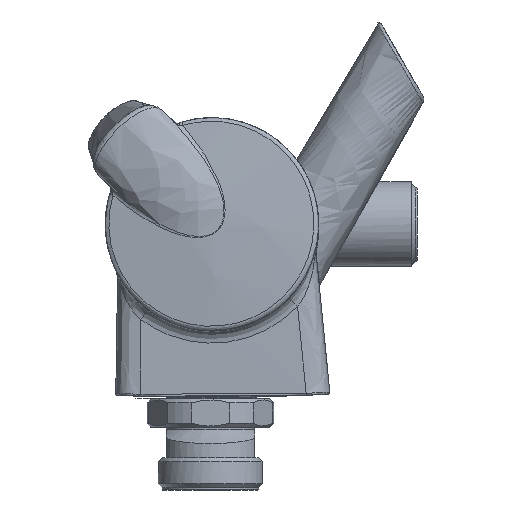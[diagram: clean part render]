
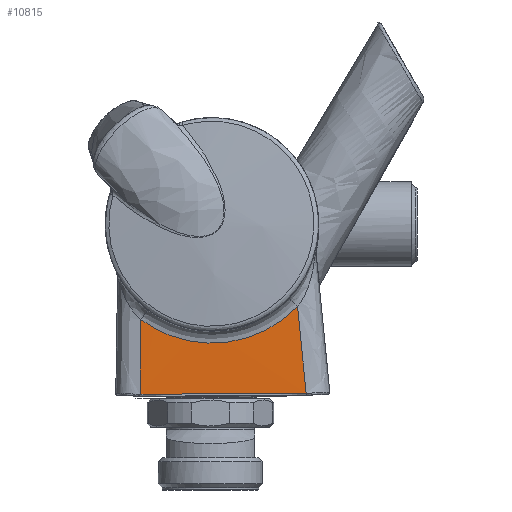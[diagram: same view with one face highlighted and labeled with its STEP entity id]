
A CAD part, left-side view. The second image highlights one B-rep face of the part: STEP entity #10815.
In plain terms, the highlighted cylindrical face has radius 2000 mm (diameter 4000 mm), a partial arc.
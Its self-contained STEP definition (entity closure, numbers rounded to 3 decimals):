
#193 = CARTESIAN_POINT ( 'NONE',  ( -96.712, -21.01, 44.919 ) ) ;
#280 = CARTESIAN_POINT ( 'NONE',  ( -96.887, -12.219, 38.956 ) ) ;
#369 = CARTESIAN_POINT ( 'NONE',  ( -97.142, 8.208, 37.72 ) ) ;
#457 = ORIENTED_EDGE ( 'NONE', *, *, #24108, .T. ) ;
#555 = ORIENTED_EDGE ( 'NONE', *, *, #2555, .T. ) ;
#632 = AXIS2_PLACEMENT_3D ( 'NONE', #11026, #22858, #20894 ) ;
#1967 = CARTESIAN_POINT ( 'NONE',  ( -97.189, 17.408, 36.138 ) ) ;
#1974 = VERTEX_POINT ( 'NONE', #7780 ) ;
#2129 = CARTESIAN_POINT ( 'NONE',  ( -96.649, -23.781, 24.003 ) ) ;
#2180 = CARTESIAN_POINT ( 'NONE',  ( -96.908, -10.978, 38.442 ) ) ;
#2187 = EDGE_CURVE ( 'NONE', #17777, #1974, #13279, .T. ) ;
#2263 = CARTESIAN_POINT ( 'NONE',  ( -97.151, 9.485, 38.14 ) ) ;
#2555 = EDGE_CURVE ( 'NONE', #18854, #17777, #5143, .T. ) ;
#3735 = CARTESIAN_POINT ( 'NONE',  ( -96.649, -23.781, 24.003 ) ) ;
#3865 = CARTESIAN_POINT ( 'NONE',  ( -97.189, 17.471, 29.956 ) ) ;
#3954 = CARTESIAN_POINT ( 'NONE',  ( -96.666, -23.064, 31.191 ) ) ;
#4088 = CARTESIAN_POINT ( 'NONE',  ( -96.943, -8.871, 37.705 ) ) ;
#4169 = CARTESIAN_POINT ( 'NONE',  ( -97.162, 11.148, 38.775 ) ) ;
#4563 = CARTESIAN_POINT ( 'NONE',  ( -97.189, 17.476, 23.773 ) ) ;
#4873 = CARTESIAN_POINT ( 'NONE',  ( -97.189, 17.287, 42.319 ) ) ;
#5143 = B_SPLINE_CURVE_WITH_KNOTS ( 'NONE', 3,
 ( #13390, #1967, #3865, #17382 ),
 .UNSPECIFIED., .F., .F.,
 ( 4, 4 ),
 ( 0.164, 0.965 ),
 .UNSPECIFIED. ) ;
#5197 = CYLINDRICAL_SURFACE ( 'NONE', #632, 2000. ) ;
#5249 = FACE_OUTER_BOUND ( 'NONE', #21618, .T. ) ;
#5932 = CARTESIAN_POINT ( 'NONE',  ( -96.699, -21.63, 45.568 ) ) ;
#5982 = CARTESIAN_POINT ( 'NONE',  ( -97.008, -4.56, 36.704 ) ) ;
#6018 = B_SPLINE_CURVE_WITH_KNOTS ( 'NONE', 3,
 ( #2129, #3954, #17561, #5932 ),
 .UNSPECIFIED., .F., .F.,
 ( 4, 4 ),
 ( 0.039, 0.849 ),
 .UNSPECIFIED. ) ;
#6063 = CARTESIAN_POINT ( 'NONE',  ( -97.179, 14.337, 40.315 ) ) ;
#6691 = VERTEX_POINT ( 'NONE', #24824 ) ;
#7780 = CARTESIAN_POINT ( 'NONE',  ( -96.649, -23.781, 24.003 ) ) ;
#7795 = CARTESIAN_POINT ( 'NONE',  ( -96.755, -19.01, 43.12 ) ) ;
#7876 = CARTESIAN_POINT ( 'NONE',  ( -97.053, -0.996, 36.448 ) ) ;
#7956 = CARTESIAN_POINT ( 'NONE',  ( -97.189, 17.287, 42.319 ) ) ;
#9696 = CARTESIAN_POINT ( 'NONE',  ( -96.814, -16.151, 41.002 ) ) ;
#9774 = CARTESIAN_POINT ( 'NONE',  ( -97.083, 1.675, 36.51 ) ) ;
#10457 = ORIENTED_EDGE ( 'NONE', *, *, #14047, .T. ) ;
#10732 = CARTESIAN_POINT ( 'NONE',  ( -97.189, 17.476, 23.773 ) ) ;
#10815 = ADVANCED_FACE ( 'NONE', ( #5249 ), #5197, .T. ) ;
#11026 = CARTESIAN_POINT ( 'NONE',  ( 1902.803, 23.026, 22.954 ) ) ;
#11641 = CARTESIAN_POINT ( 'NONE',  ( -96.879, -12.625, 39.139 ) ) ;
#11722 = CARTESIAN_POINT ( 'NONE',  ( -97.126, 6.06, 37.103 ) ) ;
#13245 = CARTESIAN_POINT ( 'NONE',  ( -97.151, 3.719, 23.282 ) ) ;
#13279 = B_SPLINE_CURVE_WITH_KNOTS ( 'NONE', 3,
 ( #10732, #13245, #15254, #3735 ),
 .UNSPECIFIED., .F., .F.,
 ( 4, 4 ),
 ( 0., 0.041 ),
 .UNSPECIFIED. ) ;
#13390 = CARTESIAN_POINT ( 'NONE',  ( -97.189, 17.287, 42.319 ) ) ;
#13523 = CARTESIAN_POINT ( 'NONE',  ( -96.699, -21.63, 45.568 ) ) ;
#13619 = CARTESIAN_POINT ( 'NONE',  ( -96.901, -11.396, 38.608 ) ) ;
#13706 = CARTESIAN_POINT ( 'NONE',  ( -97.145, 8.638, 37.854 ) ) ;
#14047 = EDGE_CURVE ( 'NONE', #6691, #18854, #22719, .T. ) ;
#15254 = CARTESIAN_POINT ( 'NONE',  ( -96.971, -10.034, 23.358 ) ) ;
#15626 = CARTESIAN_POINT ( 'NONE',  ( -96.929, -9.719, 37.976 ) ) ;
#15705 = CARTESIAN_POINT ( 'NONE',  ( -97.154, 9.905, 38.292 ) ) ;
#17382 = CARTESIAN_POINT ( 'NONE',  ( -97.189, 17.476, 23.773 ) ) ;
#17561 = CARTESIAN_POINT ( 'NONE',  ( -96.682, -22.347, 38.38 ) ) ;
#17614 = CARTESIAN_POINT ( 'NONE',  ( -96.983, -6.304, 37.011 ) ) ;
#17699 = CARTESIAN_POINT ( 'NONE',  ( -97.167, 11.959, 39.134 ) ) ;
#17777 = VERTEX_POINT ( 'NONE', #4563 ) ;
#18854 = VERTEX_POINT ( 'NONE', #4873 ) ;
#19522 = CARTESIAN_POINT ( 'NONE',  ( -96.727, -20.362, 44.3 ) ) ;
#19613 = CARTESIAN_POINT ( 'NONE',  ( -97.042, -1.896, 36.482 ) ) ;
#19690 = CARTESIAN_POINT ( 'NONE',  ( -97.185, 15.85, 41.244 ) ) ;
#20894 = DIRECTION ( 'NONE',  ( 0., -1., 0. ) ) ;
#20985 = ORIENTED_EDGE ( 'NONE', *, *, #2187, .T. ) ;
#21490 = CARTESIAN_POINT ( 'NONE',  ( -96.77, -18.31, 42.564 ) ) ;
#21576 = CARTESIAN_POINT ( 'NONE',  ( -97.074, 0.788, 36.462 ) ) ;
#21618 = EDGE_LOOP ( 'NONE', ( #555, #20985, #457, #10457 ) ) ;
#22719 = B_SPLINE_CURVE_WITH_KNOTS ( 'NONE', 3,
 ( #13523, #193, #19522, #7795, #21490, #9696, #23463, #11641, #280, #13619, #2180, #15626, #4088, #17614, #5982, #19613, #7876, #21576, #9774, #23557, #11722, #369, #13706, #2263, #15705, #4169, #17699, #6063, #19690, #7956 ),
 .UNSPECIFIED., .F., .F.,
 ( 4, 2, 2, 2, 2, 2, 2, 2, 2, 2, 2, 2, 2, 2, 4 ),
 ( 0., 0.003, 0.005, 0.011, 0.012, 0.013, 0.016, 0.022, 0.024, 0.027, 0.032, 0.034, 0.035, 0.038, 0.043 ),
 .UNSPECIFIED. ) ;
#22858 = DIRECTION ( 'NONE',  ( 0., 0., 1. ) ) ;
#23463 = CARTESIAN_POINT ( 'NONE',  ( -96.843, -14.63, 40.098 ) ) ;
#23557 = CARTESIAN_POINT ( 'NONE',  ( -97.11, 4.319, 36.771 ) ) ;
#24108 = EDGE_CURVE ( 'NONE', #1974, #6691, #6018, .T. ) ;
#24824 = CARTESIAN_POINT ( 'NONE',  ( -96.699, -21.63, 45.568 ) ) ;
